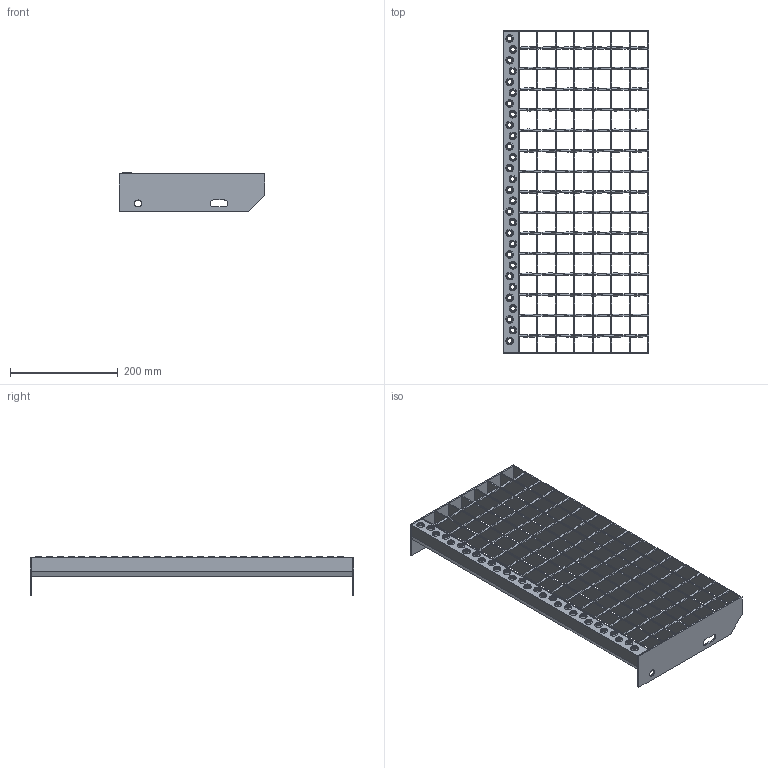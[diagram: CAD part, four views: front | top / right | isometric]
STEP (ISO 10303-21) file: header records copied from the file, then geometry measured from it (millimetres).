
FILE_DESCRIPTION(/* description */ ('STEP AP242','CAx-IF Rec.Pracs.---Representation and Presentation of Product Manufacturing Information (PMI)---4.0---2014-10-13','CAx-IF Rec.Pracs.---3D Tessellated Geometry---0.4---2014-09-14','2;1'),/* implementation_level */ '2;1');
FILE_NAME(/* name */ 'Lichtgitter_Forge_welded_stairtreads SP 230-34_38-2S-1-1-600-270-70-3-2_(350)',/* time_stamp */ '2026-09-01T15:15:39+02:00',/* author */ ('License CC BY-ND 4.0'),/* organization */ ('CADENAS'),/* preprocessor_version */ 'ST-DEVELOPER v20',/* originating_system */ 'PARTsolutions',/* authorisation */ ' ');
FILE_SCHEMA (('AP242_MANAGED_MODEL_BASED_3D_ENGINEERING_MIM_LF { 1 0 10303 442 1 1 4 }'));
Length unit declared in the file: millimetre
Products named in the file (6): Lichtgitter_Forge_welded_stairtreads SP 230-34/38-2S-1-1-600-270-70-3
-2_(350); Lichtgitter 270-600-350-2-34.33-2-70-3_LEFT; Lichtgitter 600-0-30-38.1-2-3_HORIZONTAL; Lichtgitter 270-600-350-2-34.33-70-3_RIGHT; Lichtgitter 600-350-38.1-2-2-3_FRONT; Lichtgitter SP 3.46530-34/38-3.465_(350_2_600_270_2_1.7)_VERTICAL_C
Assembly tree (26 placements, depth 2):
  Lichtgitter_Forge_welded_stairtreads SP 230-34/38-2S-1-1-600-270-70-3
-2_(350)
    Lichtgitter 270-600-350-2-34.33-2-70-3_LEFT
    Lichtgitter 600-0-30-38.1-2-3_HORIZONTAL  x8
    Lichtgitter 270-600-350-2-34.33-70-3_RIGHT
    Lichtgitter 600-350-38.1-2-2-3_FRONT
    Lichtgitter SP 3.46530-34/38-3.465_(350_2_600_270_2_1.7)_VERTICAL_C  x15
Bounding box: 270 x 600 x 72.46 mm (x, y, z)
Volume: 506379.5 mm3; surface area: 503519 mm2
Topology: 26 solids, 26 shells, 1249 faces, 2813 edges, 1616 vertices
Faces by surface type: bspline 780, plane 226, cylinder 126, cone 87, torus 30
Full cylindrical faces by diameter (mm): 13 x2
Entity records: 6769 total; most frequent: CARTESIAN_POINT 1415, DIRECTION 1055, ORIENTED_EDGE 880, EDGE_CURVE 440, EDGE_LOOP 425, FACE_BOUND 425, AXIS2_PLACEMENT_3D 404, VERTEX_POINT 327
